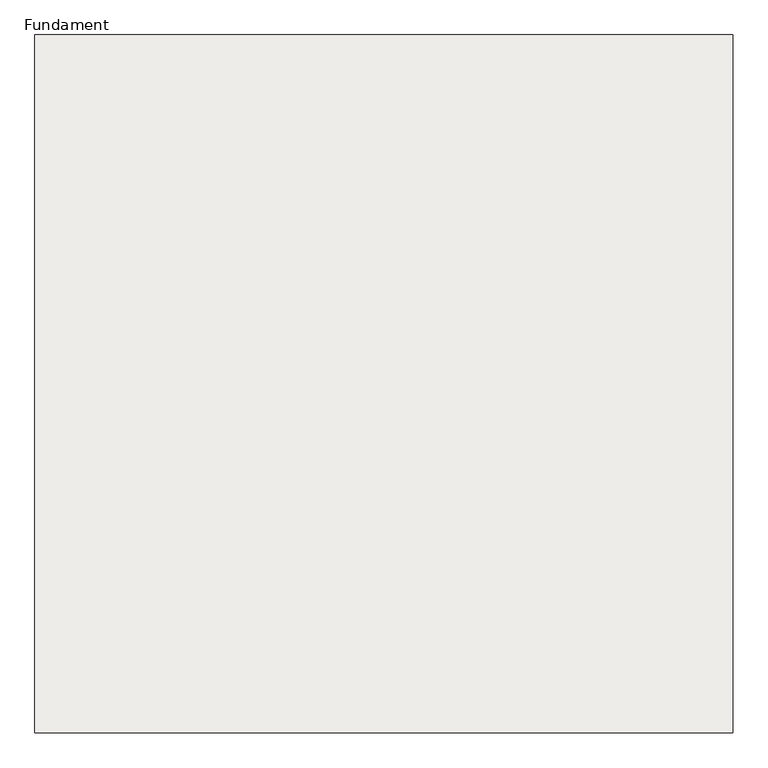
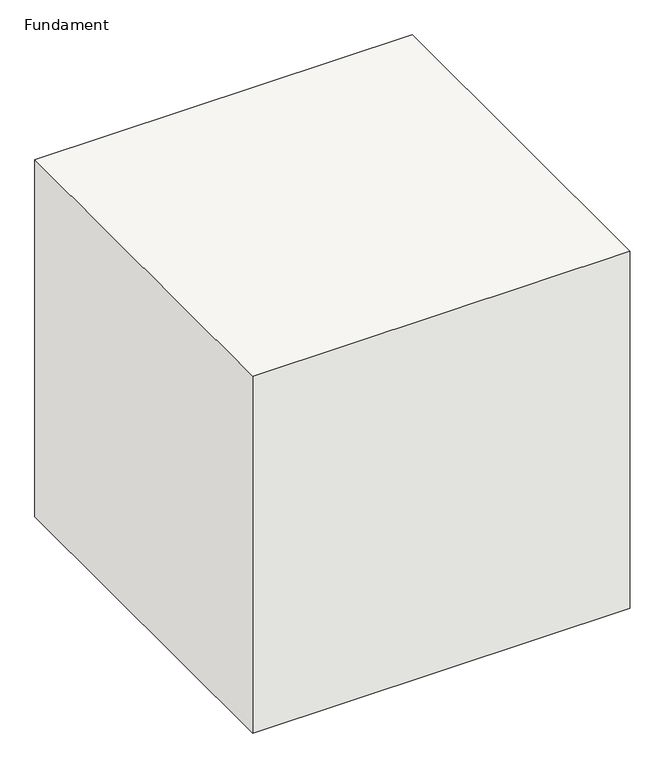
"""IFC4 building model written with IfcOpenShell, lengths in millimetres: slab geometry, Fundament : 1.00 x  1.00 x 1.20."""

from ifc_helpers import new_model, si_unit, frame, origin, place, context, project, spatial, polyline, outline, extrude, source, transform, mapped, element, save


def fundament_1db0145b(model_context):
    return source(origin(), model_context, "Body", "SweptSolid", [
        extrude(outline(polyline([(862.5974721, 189.7897643), (862.5974721, -810.2102357), (-137.4025279, -810.2102357), (-137.4025279, 189.7897643), (862.5974721, 189.7897643)])), frame((0.0, 0.0, -1000.0), z_axis=(0.0, 0.0, 1.0), x_axis=(1.0, 0.0, 0.0)), (0.0, 0.0, 1.0), 1000.0),
    ])


if __name__ == "__main__":
    model = new_model("IFC4")
    model_context = context("Model", 3, world=origin())
    ifc_project = project(units=[si_unit("LENGTHUNIT", "METRE", prefix="MILLI")], contexts=[model_context])
    site = spatial("IfcSite", under=ifc_project)
    building = spatial("IfcBuilding", under=site)
    placement = place(None, origin())
    fundament_shape = fundament_1db0145b(model_context)
    element("IfcSlab", 1, ObjectType="Fundament : 1.00 x  1.00 x 1.20", at=placement, inside=building, context=model_context, shape_type="MappedRepresentation", body=[
        mapped(fundament_shape, transform((0.0, 0.0, 0.0), x_axis=(1.0, 0.0, 0.0), y_axis=(0.0, 1.0, 0.0), z_axis=(0.0, 0.0, 1.0))),
    ])
    save(model, "model.ifc")
